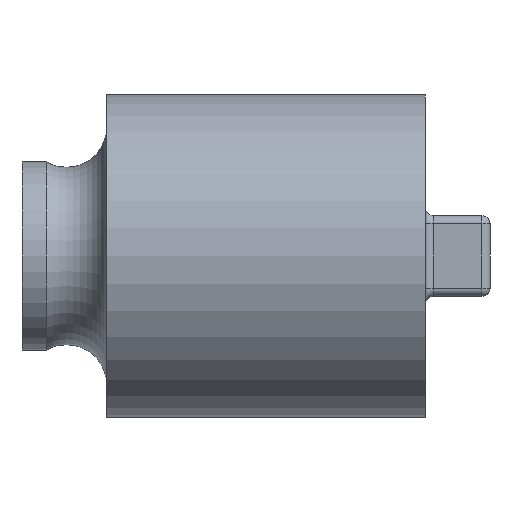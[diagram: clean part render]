
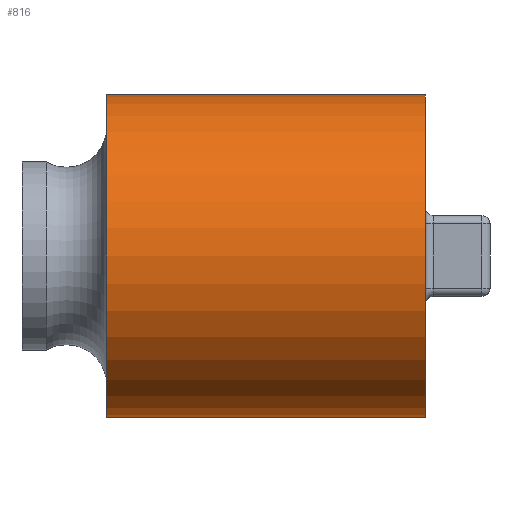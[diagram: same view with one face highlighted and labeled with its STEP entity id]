
A CAD part, left-side view. The second image highlights one B-rep face of the part: STEP entity #816.
In plain terms, the highlighted cylindrical face has radius 10 mm (diameter 20 mm), a partial arc.
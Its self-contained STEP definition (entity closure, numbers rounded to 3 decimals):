
#1=CARTESIAN_POINT('',(-10.,0.,0.));
#2=DIRECTION('',(0.,-1.,0.));
#3=DIRECTION('',(0.,0.,1.));
#4=AXIS2_PLACEMENT_3D('',#1,#2,#3);
#75=CARTESIAN_POINT('',(-10.,19.75,0.));
#76=DIRECTION('',(0.,1.,0.));
#77=DIRECTION('',(0.,0.,-1.));
#78=AXIS2_PLACEMENT_3D('',#75,#76,#77);
#286=DIRECTION('',(0.,1.,0.));
#287=VECTOR('',#286,19.75);
#288=CARTESIAN_POINT('',(-10.,0.,-10.));
#289=LINE('',#288,#287);
#311=DIRECTION('',(0.,1.,0.));
#312=VECTOR('',#311,19.75);
#313=CARTESIAN_POINT('',(-10.,0.,10.));
#314=LINE('',#313,#312);
#643=CARTESIAN_POINT('',(-10.,19.75,-10.));
#644=CARTESIAN_POINT('',(-10.,19.75,10.));
#645=VERTEX_POINT('',#643);
#646=VERTEX_POINT('',#644);
#647=CARTESIAN_POINT('',(-10.,0.,10.));
#648=VERTEX_POINT('',#647);
#649=CARTESIAN_POINT('',(-10.,0.,-10.));
#650=VERTEX_POINT('',#649);
#802=CARTESIAN_POINT('',(-10.,-32.59,0.));
#803=DIRECTION('',(0.,1.,0.));
#804=DIRECTION('',(0.,0.,1.));
#805=AXIS2_PLACEMENT_3D('',#802,#803,#804);
#806=CYLINDRICAL_SURFACE('',#805,10.);
#808=ORIENTED_EDGE('',*,*,#807,.T.);
#810=ORIENTED_EDGE('',*,*,#809,.F.);
#811=ORIENTED_EDGE('',*,*,#767,.T.);
#813=ORIENTED_EDGE('',*,*,#812,.T.);
#814=EDGE_LOOP('',(#808,#810,#811,#813));
#815=FACE_OUTER_BOUND('',#814,.F.);
#816=ADVANCED_FACE('',(#815),#806,.T.);
#5=CIRCLE('',#4,10.);
#79=CIRCLE('',#78,10.);
#767=EDGE_CURVE('',#648,#650,#5,.T.);
#807=EDGE_CURVE('',#645,#646,#79,.T.);
#809=EDGE_CURVE('',#648,#646,#314,.T.);
#812=EDGE_CURVE('',#650,#645,#289,.T.);
